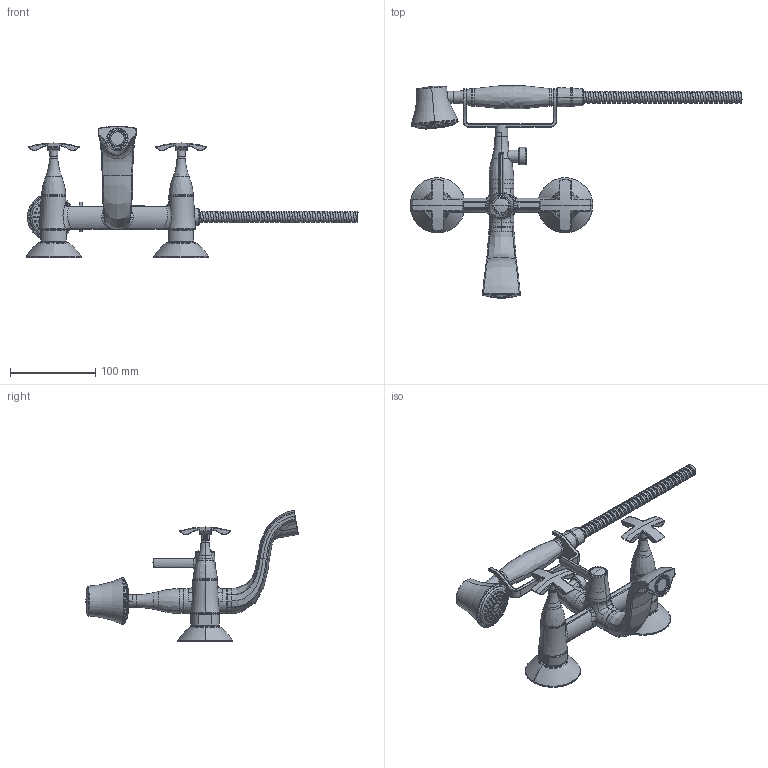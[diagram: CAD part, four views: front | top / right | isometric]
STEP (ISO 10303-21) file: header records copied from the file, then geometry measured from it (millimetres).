
FILE_DESCRIPTION((''),'2;1');
FILE_NAME('62002_SW0001','2026-04-07T13:45:08',('carloff'),(''),'CREO PARAMETRIC BY PTC INC, 2022014','CREO PARAMETRIC BY PTC INC, 2022014','');
FILE_SCHEMA(('CONFIG_CONTROL_DESIGN'));
Length unit declared in the file: millimetre
Products named in the file (1): 62002_SW0001
Bounding box: 390.5 x 249.96 x 154.69 mm (x, y, z)
Volume: 241428.8 mm3; surface area: 208733.6 mm2
Topology: 6 solids, 10 shells, 3226 faces, 7831 edges, 4708 vertices
Faces by surface type: cylinder 910, plane 859, bspline 560, cone 476, torus 295, sphere 118, revolution 6, extrusion 2
Entity records: 195766 total; most frequent: CARTESIAN_POINT 124320, ORIENTED_EDGE 15628, DIRECTION 14051, EDGE_CURVE 7814, AXIS2_PLACEMENT_3D 5712, VERTEX_POINT 4713, EDGE_LOOP 3491, FACE_OUTER_BOUND 3232
